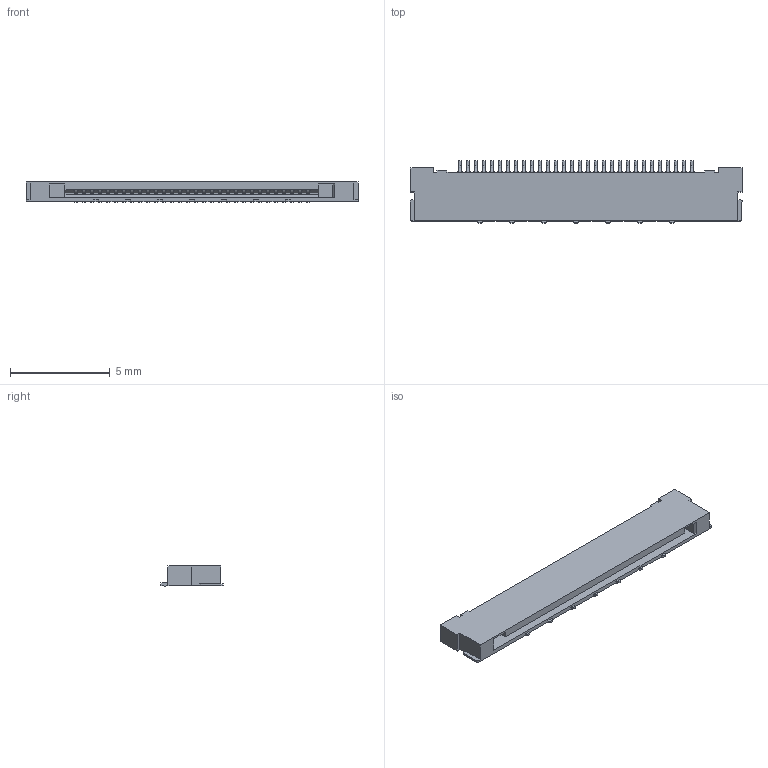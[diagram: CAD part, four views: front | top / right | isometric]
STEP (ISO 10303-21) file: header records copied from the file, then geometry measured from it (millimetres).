
FILE_DESCRIPTION(('Creo Elements/Direct Modeling STEP Export'),'2;1');
FILE_NAME('P39377_USL00-30L.stp','2017-10-11T14:20:56',(''),(''),'Creo Elements/Direct Modeling STEP processor for AP214 (Solid Model)','Creo Elements/Direct Modeling 19.0F 14-Feb-2017 (C) Parametric Technology GmbH','');
FILE_SCHEMA(('AUTOMOTIVE_DESIGN { 1 0 10303 214 1 1 1 1 }'));
Length unit declared in the file: millimetre
Products named in the file (2): USL00-30L
Assembly tree (1 placements, depth 2):
  USL00-30L
    USL00-30L
Bounding box: 16.6 x 3.1 x 1 mm (x, y, z)
Volume: 31.5 mm3; surface area: 198.7 mm2
Topology: 1 solids, 1 shells, 779 faces, 2328 edges, 1552 vertices
Faces by surface type: plane 521, cylinder 258
Entity records: 26083 total; most frequent: ORIENTED_EDGE 4656, CARTESIAN_POINT 4571, DIRECTION 4436, EDGE_CURVE 2328, VECTOR 1602, LINE 1602, VERTEX_POINT 1552, AXIS2_PLACEMENT_3D 1417
